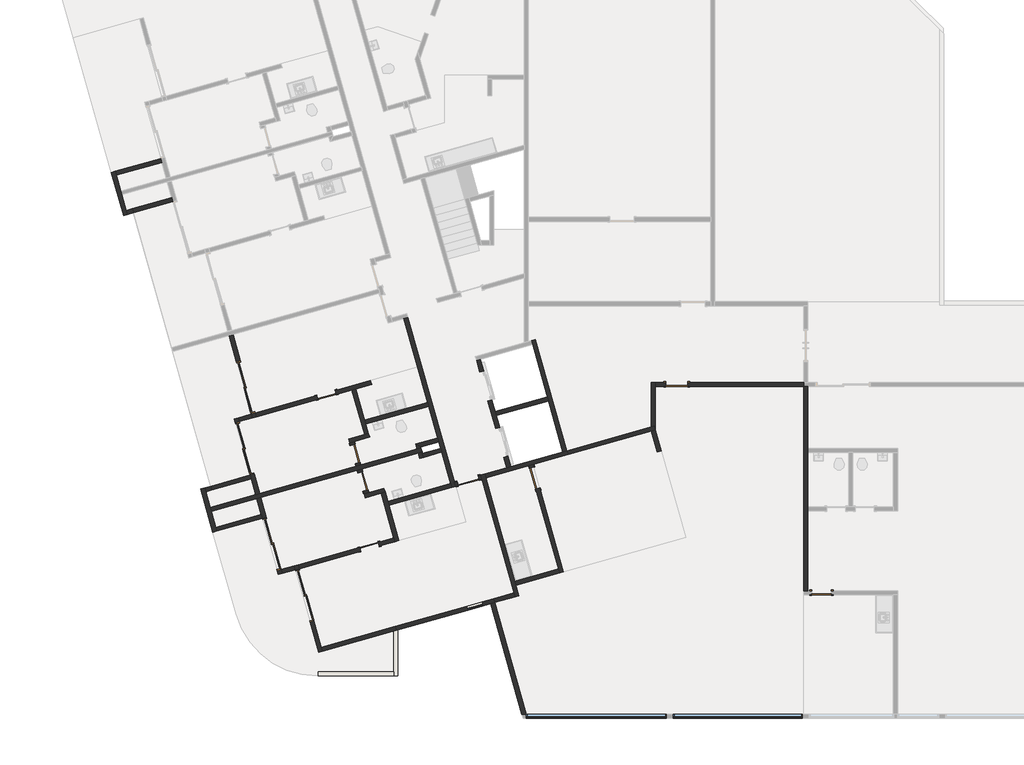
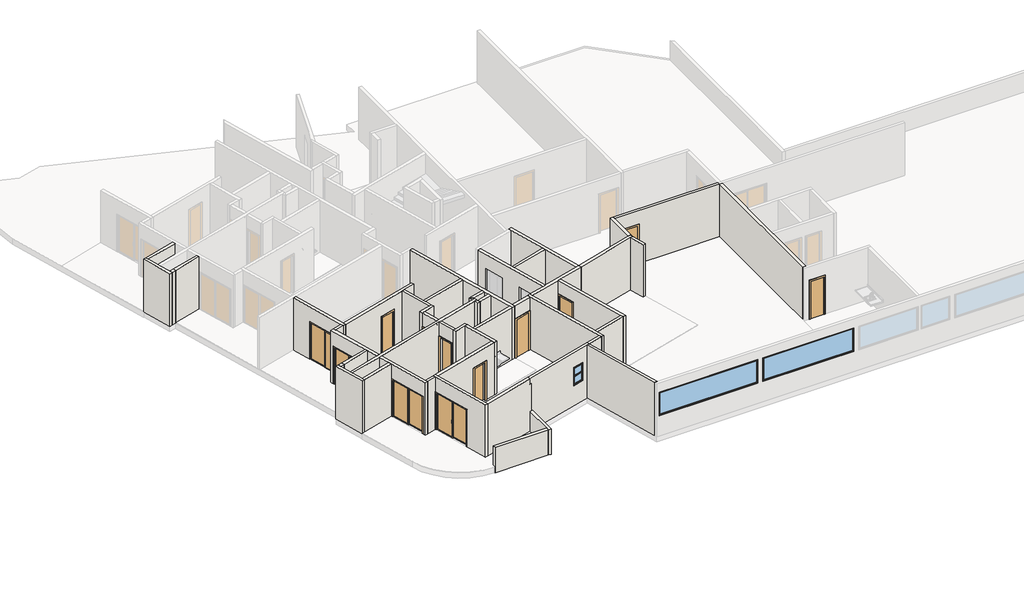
# One storey, part 1 of 7: 49 walls, 12 doors, 3 windows.
"""IFC4 building model written with IfcOpenShell, lengths in millimetres."""

from ifc_helpers import new_model, si_unit, frame, origin, place, context, project, spatial, polyline, outline, extrude, faceted_brep, transform, mapped, element, save
from components import p2_80cm_9d4be4ef, p2_80cm_083652d6, p3_70cm_ef4d15e3, p3_70cm_0a698c7c, p4_correr_200cm_eaaa0877, p4_correr_200cm_830b8f20, bx_60cm_cef95a5c, m_fixo1_jf_4_75m_a83b1cd6, m_fixo1_jf_5_15m_51e2bce7

model = new_model("IFC4")

# Units and contexts
model_context = context("Model", 3, world=origin())
ifc_project = project(units=[si_unit("LENGTHUNIT", "METRE", prefix="MILLI")], contexts=[model_context])

# Site, building, storey
site = spatial("IfcSite", under=ifc_project)
building = spatial("IfcBuilding", under=site)
storey = spatial("IfcBuildingStorey", under=building, Name="Térreo", Elevation=50750.0)

# Doors
placement = place(None, origin())
p2_80cm_shape = p2_80cm_9d4be4ef(model_context)
element("IfcDoor", 1, ObjectType="M_Folha única1 : P2 - 80CM", at=placement, inside=storey, context=model_context, shape_type="MappedRepresentation", body=[
    mapped(p2_80cm_shape, transform((-77213.6668366, 12144.847648, 50750.0), x_axis=(0.9623628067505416, 0.2717679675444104, 0.0), y_axis=(-0.2717679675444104, 0.9623628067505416, 0.0), z_axis=(0.0, 0.0, 1.0))),
])
p2_80cm_2_shape = p2_80cm_083652d6(model_context)
element("IfcDoor", 2, ObjectType="M_Folha única1 : P2 - 80CM", at=placement, inside=storey, context=model_context, shape_type="MappedRepresentation", body=[
    mapped(p2_80cm_2_shape, transform((-69550.0770621, 15689.9578375, 50750.0), x_axis=(-1.0, 0.0, 0.0), y_axis=(0.0, -1.0, 0.0), z_axis=(0.0, 0.0, 1.0))),
])
element("IfcDoor", 3, ObjectType="M_Folha única1 : P2 - 80CM", at=placement, inside=storey, context=model_context, shape_type="MappedRepresentation", body=[
    mapped(p2_80cm_2_shape, transform((-74758.2390892, 12240.7642896, 50750.0), x_axis=(-0.27176796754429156, 0.9623628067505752, 0.0), y_axis=(-0.9623628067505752, -0.27176796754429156, 0.0), z_axis=(0.0, 0.0, 1.0))),
])
p3_70cm_shape = p3_70cm_ef4d15e3(model_context)
element("IfcDoor", 4, ObjectType="M_Folha única1 : P3 - 70CM", at=placement, inside=storey, context=model_context, shape_type="MappedRepresentation", body=[
    mapped(p3_70cm_shape, transform((-80840.7851368, 9718.5269225, 50750.0), x_axis=(0.9623628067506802, 0.2717679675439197, 0.0), y_axis=(-0.2717679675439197, 0.9623628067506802, 0.0), z_axis=(0.0, 0.0, 1.0))),
])
element("IfcDoor", 5, ObjectType="M_Folha única1 : P3 - 70CM", at=placement, inside=storey, context=model_context, shape_type="MappedRepresentation", body=[
    mapped(p3_70cm_shape, transform((-81362.5862327, 13130.1209218, 50750.0), x_axis=(0.271767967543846, -0.9623628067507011, 0.0), y_axis=(0.9623628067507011, 0.271767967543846, 0.0), z_axis=(0.0, 0.0, 1.0))),
])
element("IfcDoor", 6, ObjectType="M_Folha única1 : P3 - 70CM", at=placement, inside=storey, context=model_context, shape_type="MappedRepresentation", body=[
    mapped(p3_70cm_shape, transform((-64225.8696428, 8028.4535975, 50750.0), x_axis=(-1.0, 0.0, 0.0), y_axis=(0.0, -1.0, 0.0), z_axis=(0.0, 0.0, 1.0))),
])
p3_70cm_2_shape = p3_70cm_0a698c7c(model_context)
element("IfcDoor", 7, ObjectType="M_Folha única1 : P3 - 70CM", at=placement, inside=storey, context=model_context, shape_type="MappedRepresentation", body=[
    mapped(p3_70cm_2_shape, transform((-81077.2298668, 12119.6399747, 50750.0), x_axis=(-0.27176796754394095, 0.9623628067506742, 0.0), y_axis=(-0.9623628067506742, -0.27176796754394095, 0.0), z_axis=(0.0, 0.0, 1.0))),
])
element("IfcDoor", 8, ObjectType="M_Folha única1 : P3 - 70CM", at=placement, inside=storey, context=model_context, shape_type="MappedRepresentation", body=[
    mapped(p3_70cm_2_shape, transform((-82417.0393485, 15300.2312016, 50750.0), x_axis=(0.9623628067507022, 0.27176796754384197, 0.0), y_axis=(-0.27176796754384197, 0.9623628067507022, 0.0), z_axis=(0.0, 0.0, 1.0))),
])
p4_correr_200cm_shape = p4_correr_200cm_eaaa0877(model_context)
element("IfcDoor", 9, ObjectType="Porta de correr dupla envidraçada sem revestimento : P4 - CORRER - 200CM", at=placement, inside=storey, context=model_context, shape_type="MappedRepresentation", body=[
    mapped(p4_correr_200cm_shape, transform((-84429.028315, 9822.2616509, 50750.0), x_axis=(-0.27176796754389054, 0.9623628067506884, 0.0), y_axis=(-0.9623628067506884, -0.27176796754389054, 0.0), z_axis=(0.0, 0.0, 1.0))),
])
element("IfcDoor", 10, ObjectType="Porta de correr dupla envidraçada sem revestimento : P4 - CORRER - 200CM", at=placement, inside=storey, context=model_context, shape_type="MappedRepresentation", body=[
    mapped(p4_correr_200cm_shape, transform((-83223.012588, 7928.7516937, 50750.0), x_axis=(-0.2717679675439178, 0.9623628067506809, 0.0), y_axis=(-0.9623628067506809, -0.2717679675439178, 0.0), z_axis=(0.0, 0.0, 1.0))),
])
p4_correr_200cm_2_shape = p4_correr_200cm_830b8f20(model_context)
element("IfcDoor", 11, ObjectType="Porta de correr dupla envidraçada sem revestimento : P4 - CORRER - 200CM", at=placement, inside=storey, context=model_context, shape_type="MappedRepresentation", body=[
    mapped(p4_correr_200cm_2_shape, transform((-85383.5679299, 15579.5360073, 50750.0), x_axis=(-0.2717679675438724, 0.9623628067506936, 0.0), y_axis=(-0.9623628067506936, -0.2717679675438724, 0.0), z_axis=(0.0, 0.0, 1.0))),
])
element("IfcDoor", 12, ObjectType="Porta de correr dupla envidraçada sem revestimento : P4 - CORRER - 200CM", at=placement, inside=storey, context=model_context, shape_type="MappedRepresentation", body=[
    mapped(p4_correr_200cm_2_shape, transform((-85420.9813965, 13334.8858955, 50750.0), x_axis=(-0.27176796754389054, 0.9623628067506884, 0.0), y_axis=(-0.9623628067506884, -0.27176796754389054, 0.0), z_axis=(0.0, 0.0, 1.0))),
])

# Walls
element("IfcWall", 13, ObjectType="Básica .15 -  Interna", at=placement, inside=storey, context=model_context, shape_type="Brep", body=[
    faceted_brep([(-75344.9919691, 7919.3931149, 50750.0), (-75453.968099, 8305.2905966, 50750.0), (-75494.7332941, 8449.6450176, 50750.0), (-76567.7484146, 12249.3196164, 50750.0), (-76608.5136097, 12393.6740374, 50750.0), (-76608.5136097, 12393.6740374, 53650.0), (-76567.7484146, 12249.3196164, 53650.0), (-75494.7332941, 8449.6450176, 53650.0), (-75453.968099, 8305.2905966, 53650.0), (-75344.9919691, 7919.3931149, 53650.0), (-75489.3463901, 7878.6279198, 50750.0), (-75489.3463901, 7878.6279198, 53650.0), (-75530.1115852, 8022.9823408, 53650.0), (-76712.1028356, 12208.5544213, 53650.0), (-76752.8680308, 12352.9088423, 53650.0), (-76752.8680308, 12352.9088423, 50750.0), (-76712.1028356, 12208.5544213, 50750.0), (-75530.1115852, 8022.9823408, 50750.0)], [[[0, 1, 2, 3, 4, 5, 6, 7, 8, 9]], [[10, 11, 12, 13, 14, 15, 16, 17]], [[4, 3, 2, 1, 0, 10, 17, 16, 15]], [[9, 8, 7, 6, 5, 14, 13, 12, 11]], [[0, 9, 11, 10]], [[5, 4, 15, 14]]]),
])
element("IfcWall", 14, ObjectType="Básica .15 -  Interna", at=placement, inside=storey, context=model_context, shape_type="Brep", body=[
    faceted_brep([(-79571.9228624, 18103.967491, 50750.0), (-78702.2653663, 15024.4065094, 50750.0), (-78661.5001712, 14880.0520884, 50750.0), (-78335.3786101, 13725.2167203, 50750.0), (-78294.613415, 13580.8622993, 50750.0), (-78226.6714231, 13340.2715976, 50750.0), (-78185.906228, 13195.9171766, 50750.0), (-77818.8200634, 11896.0212586, 50750.0), (-77818.8200634, 11896.0212586, 53650.0), (-78185.906228, 13195.9171766, 53650.0), (-78226.6714231, 13340.2715976, 53650.0), (-78294.613415, 13580.8622993, 53650.0), (-78335.3786101, 13725.2167203, 53650.0), (-78661.5001712, 14880.0520884, 53650.0), (-78702.2653663, 15024.4065094, 53650.0), (-79571.9228624, 18103.967491, 53650.0), (-79427.5684414, 18144.7326862, 50750.0), (-79427.5684414, 18144.7326862, 53650.0), (-77715.2308375, 12081.1408747, 53650.0), (-77674.4656424, 11936.7864537, 53650.0), (-77674.4656424, 11936.7864537, 50750.0), (-77715.2308375, 12081.1408747, 50750.0)], [[[0, 1, 2, 3, 4, 5, 6, 7, 8, 9, 10, 11, 12, 13, 14, 15]], [[16, 17, 18, 19, 20, 21]], [[7, 6, 5, 4, 3, 2, 1, 0, 16, 21, 20]], [[15, 14, 13, 12, 11, 10, 9, 8, 19, 18, 17]], [[0, 15, 17, 16]], [[8, 7, 20, 19]]]),
])
element("IfcWall", 15, ObjectType="Básica .15 -  Interna", at=placement, inside=storey, context=model_context, shape_type="Brep", body=[
    faceted_brep([(-85017.5646639, 11630.3683862, 53650.0), (-85180.6254444, 12207.7860702, 53650.0), (-85221.3906395, 12352.1404912, 53650.0), (-85805.6917697, 14421.2205257, 53650.0), (-85805.6917697, 14421.2205257, 50750.0), (-85764.9265746, 14276.8661047, 50750.0), (-85764.9265746, 14276.8661047, 52850.0), (-85221.3906395, 12352.1404912, 52850.0), (-85221.3906395, 12352.1404912, 50750.0), (-85180.6254444, 12207.7860702, 50750.0), (-85017.5646639, 11630.3683862, 50750.0), (-85661.3373487, 14461.9857209, 53650.0), (-85620.5721536, 14317.6312998, 53650.0), (-84873.2102428, 11671.1335813, 53650.0), (-84873.2102428, 11671.1335813, 50750.0), (-85077.0362185, 12392.9056863, 50750.0), (-85077.0362185, 12392.9056863, 52850.0), (-85620.5721536, 14317.6312998, 52850.0), (-85620.5721536, 14317.6312998, 50750.0), (-85661.3373487, 14461.9857209, 50750.0)], [[[0, 1, 2, 3, 4, 5, 6, 7, 8, 9, 10]], [[11, 12, 13, 14, 15, 16, 17, 18, 19]], [[4, 19, 18, 5]], [[14, 10, 9, 8, 15]], [[3, 2, 1, 0, 13, 12, 11]], [[4, 3, 11, 19]], [[0, 10, 14, 13]], [[17, 6, 5, 18]], [[6, 17, 16, 7]], [[7, 16, 15, 8]]]),
])
element("IfcWall", 16, ObjectType="Básica .15 -  Interna", at=placement, inside=storey, context=model_context, shape_type="Brep", body=[
    faceted_brep([(-82710.8886682, 5839.2890616, 53650.0), (-83566.957766, 8870.7319029, 53650.0), (-83607.7229611, 9015.0863239, 53650.0), (-83607.7229611, 9015.0863239, 50750.0), (-83566.957766, 8870.7319029, 50750.0), (-83566.957766, 8870.7319029, 52850.0), (-83023.4218309, 6946.0062894, 52850.0), (-83023.4218309, 6946.0062894, 50750.0), (-82710.8886682, 5839.2890616, 50750.0), (-83463.3685401, 9055.851519, 53650.0), (-83422.603345, 8911.497098, 53650.0), (-82607.2994424, 6024.4086777, 53650.0), (-82566.5342472, 5880.0542567, 53650.0), (-82566.5342472, 5880.0542567, 50750.0), (-82607.2994424, 6024.4086777, 50750.0), (-82879.0674099, 6986.7714845, 50750.0), (-82879.0674099, 6986.7714845, 52850.0), (-83422.603345, 8911.497098, 52850.0), (-83422.603345, 8911.497098, 50750.0), (-83463.3685401, 9055.851519, 50750.0)], [[[0, 1, 2, 3, 4, 5, 6, 7, 8]], [[9, 10, 11, 12, 13, 14, 15, 16, 17, 18, 19]], [[3, 19, 18, 4]], [[13, 8, 7, 15, 14]], [[2, 1, 0, 12, 11, 10, 9]], [[3, 2, 9, 19]], [[0, 8, 13, 12]], [[17, 5, 4, 18]], [[5, 17, 16, 6]], [[6, 16, 15, 7]]]),
])
element("IfcWall", 17, ObjectType="Básica .15 - Externa", at=placement, inside=storey, context=model_context, shape_type="Brep", body=[
    faceted_brep([(-79945.4990038, 6620.2256515, 51850.0), (-79945.4990038, 6620.2256515, 50450.0), (-79945.4990038, 5119.4122055, 50450.0), (-79945.4990038, 4969.4122055, 50450.0), (-79945.4990038, 4969.4122055, 51850.0), (-79945.4990038, 5119.4122055, 51850.0), (-79795.4990038, 6662.5851389, 50450.0), (-79795.4990038, 6662.5851389, 51850.0), (-79795.4990038, 4969.4122055, 51850.0), (-79795.4990038, 4969.4122055, 50450.0)], [[[0, 1, 2, 3, 4, 5]], [[6, 7, 8, 9]], [[3, 2, 1, 6, 9]], [[0, 5, 4, 8, 7]], [[4, 3, 9, 8]], [[0, 7, 6, 1]]]),
])
element("IfcWall", 18, ObjectType="Básica .15 - Externa", at=placement, inside=storey, context=model_context, shape_type="SweptSolid", body=[
    extrude(outline(polyline([(-82713.5540687, 5119.4122055), (-79945.4990038, 5119.4122055), (-79945.4990038, 4969.4122055), (-82713.5540687, 4969.4122055), (-82713.5540687, 5119.4122055)])), frame((0.0, 0.0, 50450.0), z_axis=(0.0, 0.0, 1.0), x_axis=(1.0, 0.0, 0.0)), (0.0, 0.0, 1.0), 1400.0),
])
element("IfcWall", 19, ObjectType="Básica .15 -  Interna", at=placement, inside=storey, context=model_context, shape_type="Brep", body=[
    faceted_brep([(-73581.8825825, 13248.3842954, 50750.0), (-73726.2370035, 13207.6191002, 50750.0), (-75646.150803, 12665.442005, 50750.0), (-75790.505224, 12624.6768098, 50750.0), (-76608.5136097, 12393.6740374, 50750.0), (-76608.5136097, 12393.6740374, 53650.0), (-75790.505224, 12624.6768098, 53650.0), (-75646.150803, 12665.442005, 53650.0), (-73726.2370035, 13207.6191002, 53650.0), (-73581.8825825, 13248.3842954, 53650.0), (-73541.1173874, 13104.0298743, 50750.0), (-73541.1173874, 13104.0298743, 53650.0), (-74821.9458624, 12742.3282905, 53650.0), (-74966.3002834, 12701.5630954, 53650.0), (-76567.7484146, 12249.3196164, 53650.0), (-76567.7484146, 12249.3196164, 50750.0), (-74966.3002834, 12701.5630954, 50750.0), (-74821.9458624, 12742.3282905, 50750.0), (-73541.3863303, 13104.9822333, 50750.0), (-73541.3863303, 13104.9822333, 53650.0)], [[[0, 1, 2, 3, 4, 5, 6, 7, 8, 9]], [[10, 11, 12, 13, 14, 15, 16, 17]], [[4, 3, 2, 1, 0, 18, 10, 17, 16, 15]], [[9, 8, 7, 6, 5, 14, 13, 12, 11, 19]], [[0, 9, 19, 11, 10, 18]], [[5, 4, 15, 14]]]),
])
element("IfcWall", 20, ObjectType="Básica .15 -  Interna", at=placement, inside=storey, context=model_context, shape_type="Brep", body=[
    faceted_brep([(-74881.2508656, 17297.6610289, 50750.0), (-74840.4856705, 17153.3066079, 50750.0), (-74296.9497354, 15228.5809944, 50750.0), (-74256.1845402, 15084.2265734, 50750.0), (-73726.2370035, 13207.6191002, 50750.0), (-73726.2370035, 13207.6191002, 53650.0), (-74256.1845402, 15084.2265734, 53650.0), (-74296.9497354, 15228.5809944, 53650.0), (-74840.4856705, 17153.3066079, 53650.0), (-74881.2508656, 17297.6610289, 53650.0), (-74736.8964446, 17338.426224, 50750.0), (-74736.8964446, 17338.426224, 53650.0), (-73582.1515254, 13249.3366543, 53650.0), (-73581.8825825, 13248.3842954, 53650.0), (-73581.8825825, 13248.3842954, 50750.0), (-73582.1515254, 13249.3366543, 50750.0)], [[[0, 1, 2, 3, 4, 5, 6, 7, 8, 9]], [[10, 11, 12, 13, 14, 15]], [[4, 3, 2, 1, 0, 10, 15, 14]], [[9, 8, 7, 6, 5, 13, 12, 11]], [[5, 4, 14, 13]], [[0, 9, 11, 10]]]),
])
element("IfcWall", 21, ObjectType="Básica .15 -  Interna", at=placement, inside=storey, context=model_context, shape_type="Brep", body=[
    faceted_brep([(-76483.167581, 15077.4768805, 50750.0), (-76197.8112151, 14066.9959334, 50750.0), (-76197.8112151, 14066.9959334, 52875.0), (-75898.8664508, 13008.396846, 52875.0), (-75898.8664508, 13008.396846, 50750.0), (-75790.505224, 12624.6768098, 50750.0), (-75790.505224, 12624.6768098, 53650.0), (-76904.7538909, 16570.3643175, 53650.0), (-76904.7538909, 16570.3643175, 50750.0), (-76782.1123453, 16136.075968, 50750.0), (-76782.1123453, 16136.075968, 52875.0), (-76483.167581, 15077.4768805, 52875.0), (-76053.4567941, 14107.7611286, 52875.0), (-76053.4567941, 14107.7611286, 50750.0), (-76176.0983397, 14542.0494781, 50750.0), (-76216.8635348, 14686.4038991, 50750.0), (-76338.81316, 15118.2420757, 50750.0), (-76338.81316, 15118.2420757, 52875.0), (-76637.7579243, 16176.8411631, 52875.0), (-76637.7579243, 16176.8411631, 50750.0), (-76760.3994699, 16611.1295126, 50750.0), (-76760.3994699, 16611.1295126, 53650.0), (-76216.8635348, 14686.4038991, 53650.0), (-76176.0983397, 14542.0494781, 53650.0), (-75646.150803, 12665.442005, 53650.0), (-75646.150803, 12665.442005, 50750.0), (-75754.5120298, 13049.1620412, 50750.0), (-75754.5120298, 13049.1620412, 52875.0)], [[[0, 1, 2, 3, 4, 5, 6, 7, 8, 9, 10, 11]], [[12, 13, 14, 15, 16, 17, 18, 19, 20, 21, 22, 23, 24, 25, 26, 27]], [[9, 8, 20, 19]], [[26, 25, 5, 4]], [[16, 15, 14, 13, 1, 0]], [[7, 6, 24, 23, 22, 21]], [[8, 7, 21, 20]], [[6, 5, 25, 24]], [[4, 3, 27, 26]], [[2, 1, 13, 12]], [[3, 2, 12, 27]], [[19, 18, 10, 9]], [[17, 16, 0, 11]], [[18, 17, 11, 10]]]),
])
element("IfcWall", 22, ObjectType="Básica .15 -  Interna", at=placement, inside=storey, context=model_context, shape_type="SweptSolid", body=[
    extrude(outline(polyline([(-74256.1845402, 15084.2265734), (-76176.0983397, 14542.0494781), (-76216.8635348, 14686.4038991), (-74296.9497354, 15228.5809944), (-74256.1845402, 15084.2265734)])), frame((0.0, 0.0, 50750.0), z_axis=(0.0, 0.0, 1.0), x_axis=(1.0, 0.0, 0.0)), (0.0, 0.0, 1.0), 2900.0),
])
element("IfcWall", 23, ObjectType="Básica .15 -  Interna", at=placement, inside=storey, context=model_context, shape_type="Brep", body=[
    faceted_brep([(-82566.5342472, 5880.0542567, 50750.0), (-79850.1164062, 6647.1613711, 50750.0), (-79850.1164062, 6647.1613711, 53350.0), (-79945.4990038, 6620.2256515, 53350.0), (-79945.4990038, 6620.2256515, 53650.0), (-82566.5342472, 5880.0542567, 53650.0), (-82607.2994424, 6024.4086777, 50750.0), (-82607.2994424, 6024.4086777, 53650.0), (-79945.4990038, 6776.0920243, 53650.0), (-79945.4990038, 6776.0920243, 53350.0), (-79890.8816014, 6791.5157921, 53350.0), (-79890.8816014, 6791.5157921, 50750.0)], [[[0, 1, 2, 3, 4, 5]], [[6, 7, 8, 9, 10, 11]], [[1, 0, 6, 11]], [[5, 4, 8, 7]], [[0, 5, 7, 6]], [[1, 11, 10, 2]], [[9, 3, 2, 10]], [[4, 3, 9, 8]]]),
])
element("IfcWall", 24, ObjectType="Básica .15 -  Interna", at=placement, inside=storey, context=model_context, shape_type="Brep", body=[
    faceted_brep([(-85221.3906395, 12352.1404912, 50750.0), (-86668.7560772, 11943.4094383, 50750.0), (-86668.7560772, 11943.4094383, 53650.0), (-85221.3906395, 12352.1404912, 53650.0), (-85221.3906395, 12352.1404912, 52850.0), (-85180.6254444, 12207.7860702, 50750.0), (-85180.6254444, 12207.7860702, 53650.0), (-86627.9908821, 11799.0550173, 53650.0), (-86627.9908821, 11799.0550173, 50750.0)], [[[0, 1, 2, 3, 4]], [[5, 6, 7, 8]], [[1, 0, 5, 8]], [[2, 1, 8, 7]], [[3, 2, 7, 6]], [[0, 4, 3, 6, 5]]]),
])
element("IfcWall", 25, ObjectType="Básica .15 - Externa", at=placement, inside=storey, context=model_context, shape_type="Brep", body=[
    faceted_brep([(-86444.4738537, 10292.215871, 50750.0), (-86485.2390488, 10436.570292, 50750.0), (-86648.2998293, 11013.987976, 50750.0), (-86689.0650245, 11158.342397, 50750.0), (-86852.125805, 11735.7600811, 50750.0), (-86892.8910001, 11880.1145021, 50750.0), (-86892.8910001, 11880.1145021, 53650.0), (-86852.125805, 11735.7600811, 53650.0), (-86689.0650245, 11158.342397, 53650.0), (-86648.2998293, 11013.987976, 53650.0), (-86485.2390488, 10436.570292, 53650.0), (-86444.4738537, 10292.215871, 53650.0), (-86588.8282747, 10251.4506758, 50750.0), (-86588.8282747, 10251.4506758, 53650.0), (-87037.2454211, 11839.349307, 53650.0), (-87037.2454211, 11839.349307, 50750.0)], [[[0, 1, 2, 3, 4, 5, 6, 7, 8, 9, 10, 11]], [[12, 13, 14, 15]], [[5, 4, 3, 2, 1, 0, 12, 15]], [[11, 10, 9, 8, 7, 6, 14, 13]], [[6, 5, 15, 14]], [[0, 11, 13, 12]]]),
])
element("IfcWall", 26, ObjectType="Básica .15 -  Interna", at=placement, inside=storey, context=model_context, shape_type="Brep", body=[
    faceted_brep([(-86444.4738537, 10292.215871, 50750.0), (-84772.9734931, 10764.2418601, 50750.0), (-84772.9734931, 10764.2418601, 52850.0), (-84772.9734931, 10764.2418601, 53650.0), (-86444.4738537, 10292.215871, 53650.0), (-86485.2390488, 10436.570292, 50750.0), (-86485.2390488, 10436.570292, 53650.0), (-84813.7386882, 10908.5962811, 53650.0), (-84813.7386882, 10908.5962811, 50750.0)], [[[0, 1, 2, 3, 4]], [[5, 6, 7, 8]], [[1, 0, 5, 8]], [[4, 3, 7, 6]], [[0, 4, 6, 5]], [[3, 2, 1, 8, 7]]]),
])
element("IfcWall", 27, ObjectType="Básica .15 - Externa", at=placement, inside=storey, context=model_context, shape_type="Brep", body=[
    faceted_brep([(-89732.866261, 21936.8058326, 50750.0), (-89773.6314561, 22081.1602536, 50750.0), (-89936.6922366, 22658.5779377, 50750.0), (-89977.4574318, 22802.9323587, 50750.0), (-90140.5182123, 23380.3500428, 50750.0), (-90181.2834074, 23524.7044638, 50750.0), (-90181.2834074, 23524.7044638, 53650.0), (-90140.5182123, 23380.3500428, 53650.0), (-89977.4574318, 22802.9323587, 53650.0), (-89936.6922366, 22658.5779377, 53650.0), (-89773.6314561, 22081.1602536, 53650.0), (-89732.866261, 21936.8058326, 53650.0), (-89877.220682, 21896.0406375, 50750.0), (-89877.220682, 21896.0406375, 53650.0), (-90325.6378284, 23483.9392686, 53650.0), (-90325.6378284, 23483.9392686, 50750.0)], [[[0, 1, 2, 3, 4, 5, 6, 7, 8, 9, 10, 11]], [[12, 13, 14, 15]], [[5, 4, 3, 2, 1, 0, 12, 15]], [[11, 10, 9, 8, 7, 6, 14, 13]], [[0, 11, 13, 12]], [[6, 5, 15, 14]]]),
])
element("IfcWall", 28, ObjectType="Básica .15 -  Interna", at=placement, inside=storey, context=model_context, shape_type="Brep", body=[
    faceted_brep([(-88102.1310955, 22553.1862428, 50750.0), (-89549.4965332, 22144.4551899, 50750.0), (-89549.4965332, 22144.4551899, 53650.0), (-88102.1310955, 22553.1862428, 53650.0), (-88061.3659003, 22408.8318218, 50750.0), (-88061.3659003, 22408.8318218, 52850.0), (-88061.3659003, 22408.8318218, 53650.0), (-89508.731338, 22000.1007688, 53650.0), (-89508.731338, 22000.1007688, 50750.0)], [[[0, 1, 2, 3]], [[4, 5, 6, 7, 8]], [[1, 0, 4, 8]], [[2, 1, 8, 7]], [[3, 2, 7, 6]], [[0, 3, 6, 5, 4]]]),
])
element("IfcWall", 29, ObjectType="Básica .15 -  Interna", at=placement, inside=storey, context=model_context, shape_type="Brep", body=[
    faceted_brep([(-90140.5182123, 23380.3500428, 50750.0), (-88469.0178517, 23852.3760319, 50750.0), (-88469.0178517, 23852.3760319, 53650.0), (-90140.5182123, 23380.3500428, 53650.0), (-90181.2834074, 23524.7044638, 50750.0), (-90181.2834074, 23524.7044638, 53650.0), (-88509.7830468, 23996.7304529, 53650.0), (-88509.7830468, 23996.7304529, 52850.0), (-88509.7830468, 23996.7304529, 50750.0)], [[[0, 1, 2, 3]], [[4, 5, 6, 7, 8]], [[1, 0, 4, 8]], [[3, 2, 6, 5]], [[0, 3, 5, 4]], [[2, 1, 8, 7, 6]]]),
])
element("IfcWall", 30, ObjectType="Básica .15 -  Interna", at=placement, inside=storey, context=model_context, shape_type="Brep", body=[
    faceted_brep([(-83607.7229611, 9015.0863239, 50750.0), (-84085.083137, 8880.2814417, 50750.0), (-84085.083137, 8880.2814417, 52850.0), (-84085.083137, 8880.2814417, 53650.0), (-83607.7229611, 9015.0863239, 53650.0), (-83566.957766, 8870.7319029, 50750.0), (-83566.957766, 8870.7319029, 52850.0), (-83566.957766, 8870.7319029, 53650.0), (-84044.3179418, 8735.9270207, 53650.0), (-84044.3179418, 8735.9270207, 50750.0)], [[[0, 1, 2, 3, 4]], [[5, 6, 7, 8, 9]], [[1, 0, 5, 9]], [[4, 3, 8, 7]], [[3, 2, 1, 9, 8]], [[0, 4, 7, 6, 5]]]),
])
element("IfcWall", 31, ObjectType="Básica .15 -  Interna", at=placement, inside=storey, context=model_context, shape_type="Brep", body=[
    faceted_brep([(-85183.9771729, 14596.790603, 50750.0), (-85661.3373487, 14461.9857209, 50750.0), (-85661.3373487, 14461.9857209, 53650.0), (-85183.9771729, 14596.790603, 53650.0), (-85183.9771729, 14596.790603, 52850.0), (-85143.2119778, 14452.436182, 50750.0), (-85143.2119778, 14452.436182, 53650.0), (-85620.5721536, 14317.6312998, 53650.0), (-85620.5721536, 14317.6312998, 52850.0), (-85620.5721536, 14317.6312998, 50750.0)], [[[0, 1, 2, 3, 4]], [[5, 6, 7, 8, 9]], [[1, 0, 5, 9]], [[3, 2, 7, 6]], [[2, 1, 9, 8, 7]], [[0, 4, 3, 6, 5]]]),
])
element("IfcWall", 32, ObjectType="Básica .15 -  Interna", at=placement, inside=storey, context=model_context, shape_type="Brep", body=[
    faceted_brep([(-85143.2119778, 14452.436182, 53650.0), (-85183.9771729, 14596.790603, 53650.0), (-85992.4868763, 17459.8199531, 53650.0), (-85992.4868763, 17459.8199531, 50750.0), (-85727.513108, 16521.5162165, 50750.0), (-85727.513108, 16521.5162165, 52850.0), (-85183.9771729, 14596.790603, 52850.0), (-85183.9771729, 14596.790603, 50750.0), (-85143.2119778, 14452.436182, 50750.0), (-85848.1324553, 17500.5851482, 53650.0), (-85039.6227519, 14637.5557982, 53650.0), (-84998.8575568, 14493.2013772, 53650.0), (-84998.8575568, 14493.2013772, 50750.0), (-85039.6227519, 14637.5557982, 50750.0), (-85039.6227519, 14637.5557982, 52850.0), (-85583.158687, 16562.2814117, 52850.0), (-85583.158687, 16562.2814117, 50750.0), (-85848.1324553, 17500.5851482, 50750.0)], [[[0, 1, 2, 3, 4, 5, 6, 7, 8]], [[9, 10, 11, 12, 13, 14, 15, 16, 17]], [[3, 17, 16, 4]], [[12, 8, 7, 13]], [[2, 1, 0, 11, 10, 9]], [[3, 2, 9, 17]], [[0, 8, 12, 11]], [[15, 5, 4, 16]], [[5, 15, 14, 6]], [[6, 14, 13, 7]]]),
])
element("IfcWall", 33, ObjectType="Básica .15 -  Interna", at=placement, inside=storey, context=model_context, shape_type="Brep", body=[
    faceted_brep([(-78945.0553533, 13345.2242614, 50750.0), (-81168.1134369, 12717.4402563, 50750.0), (-81312.4678579, 12676.6750612, 50750.0), (-84873.2102428, 11671.1335813, 50750.0), (-85017.5646639, 11630.3683862, 50750.0), (-86689.0650245, 11158.342397, 50750.0), (-86689.0650245, 11158.342397, 53650.0), (-85017.5646639, 11630.3683862, 53650.0), (-84873.2102428, 11671.1335813, 53650.0), (-81312.4678579, 12676.6750612, 53650.0), (-81168.1134369, 12717.4402563, 53650.0), (-78945.0553533, 13345.2242614, 53650.0), (-78904.2901581, 13200.8698403, 50750.0), (-78904.2901581, 13200.8698403, 53650.0), (-81127.3482417, 12573.0858353, 53650.0), (-81271.7026627, 12532.3206402, 53650.0), (-84832.4450477, 11526.7791603, 53650.0), (-84976.7994687, 11486.0139651, 53650.0), (-86648.2998293, 11013.987976, 53650.0), (-86648.2998293, 11013.987976, 50750.0), (-84976.7994687, 11486.0139651, 50750.0), (-84832.4450477, 11526.7791603, 50750.0), (-81271.7026627, 12532.3206402, 50750.0), (-81127.3482417, 12573.0858353, 50750.0)], [[[0, 1, 2, 3, 4, 5, 6, 7, 8, 9, 10, 11]], [[12, 13, 14, 15, 16, 17, 18, 19, 20, 21, 22, 23]], [[5, 4, 3, 2, 1, 0, 12, 23, 22, 21, 20, 19]], [[11, 10, 9, 8, 7, 6, 18, 17, 16, 15, 14, 13]], [[0, 11, 13, 12]], [[6, 5, 19, 18]]]),
])
element("IfcWall", 34, ObjectType="Básica .15 -  Interna", at=placement, inside=storey, context=model_context, shape_type="Brep", body=[
    faceted_brep([(-84188.6723628, 8695.1618256, 53650.0), (-84772.9734931, 10764.2418601, 53650.0), (-84813.7386882, 10908.5962811, 53650.0), (-84976.7994687, 11486.0139651, 53650.0), (-84976.7994687, 11486.0139651, 50750.0), (-84813.7386882, 10908.5962811, 50750.0), (-84772.9734931, 10764.2418601, 50750.0), (-84772.9734931, 10764.2418601, 52850.0), (-84229.437558, 8839.5162466, 52850.0), (-84229.437558, 8839.5162466, 50750.0), (-84188.6723628, 8695.1618256, 50750.0), (-84832.4450477, 11526.7791603, 53650.0), (-84085.083137, 8880.2814417, 53650.0), (-84044.3179418, 8735.9270207, 53650.0), (-84044.3179418, 8735.9270207, 50750.0), (-84085.083137, 8880.2814417, 50750.0), (-84085.083137, 8880.2814417, 52850.0), (-84628.6190721, 10805.0070552, 52850.0), (-84628.6190721, 10805.0070552, 50750.0), (-84832.4450477, 11526.7791603, 50750.0)], [[[0, 1, 2, 3, 4, 5, 6, 7, 8, 9, 10]], [[11, 12, 13, 14, 15, 16, 17, 18, 19]], [[14, 10, 9, 15]], [[4, 19, 18, 6, 5]], [[3, 2, 1, 0, 13, 12, 11]], [[0, 10, 14, 13]], [[4, 3, 11, 19]], [[17, 7, 6, 18]], [[7, 17, 16, 8]], [[8, 16, 15, 9]]]),
])
element("IfcWall", 35, ObjectType="Básica .15 - Externa", at=placement, inside=storey, context=model_context, shape_type="Brep", body=[
    faceted_brep([(-79850.1164062, 6647.1613711, 53350.0), (-79850.1164062, 6647.1613711, 50750.0), (-76385.7999624, 7625.4724948, 50750.0), (-76241.4455414, 7666.2376899, 50750.0), (-76241.4455414, 7666.2376899, 53650.0), (-76385.7999624, 7625.4724948, 53650.0), (-79850.1164062, 6647.1613711, 53650.0), (-79945.4990038, 6620.2256515, 53650.0), (-79945.4990038, 6620.2256515, 53350.0), (-76649.6431667, 7550.9640756, 51850.0), (-77227.0608508, 7387.9032951, 51850.0), (-77227.0608508, 7387.9032951, 52850.0), (-76649.6431667, 7550.9640756, 52850.0), (-79890.8816014, 6791.5157921, 50750.0), (-79890.8816014, 6791.5157921, 53350.0), (-79945.4990038, 6776.0920243, 53350.0), (-79945.4990038, 6776.0920243, 53650.0), (-79890.8816014, 6791.5157921, 53650.0), (-76282.2107365, 7810.5921109, 53650.0), (-76282.2107365, 7810.5921109, 50750.0), (-76426.5651575, 7769.8269158, 50750.0), (-76690.4083619, 7695.3184966, 51850.0), (-76690.4083619, 7695.3184966, 52850.0), (-77267.8260459, 7532.2577161, 52850.0), (-77267.8260459, 7532.2577161, 51850.0)], [[[0, 1, 2, 3, 4, 5, 6, 7, 8], [9, 10, 11, 12]], [[13, 14, 15, 16, 17, 18, 19, 20], [21, 22, 23, 24]], [[3, 2, 1, 13, 20, 19]], [[7, 6, 5, 4, 18, 17, 16]], [[21, 24, 10, 9]], [[24, 23, 11, 10]], [[23, 22, 12, 11]], [[22, 21, 9, 12]], [[0, 14, 13, 1]], [[8, 15, 14, 0]], [[8, 7, 16, 15]], [[4, 3, 19, 18]]]),
])
element("IfcWall", 36, ObjectType="Básica .15 - Externa", at=placement, inside=storey, context=model_context, shape_type="SweptSolid", body=[
    extrude(outline(polyline([(-89773.6314561, 22081.1602536), (-89549.4965332, 22144.4551899), (-89508.731338, 22000.1007688), (-89732.866261, 21936.8058326), (-89773.6314561, 22081.1602536)])), frame((0.0, 0.0, 50750.0), z_axis=(0.0, 0.0, 1.0), x_axis=(1.0, 0.0, 0.0)), (0.0, 0.0, 1.0), 2900.0),
])
element("IfcWall", 37, ObjectType="Básica .15 - Externa", at=placement, inside=storey, context=model_context, shape_type="SweptSolid", body=[
    extrude(outline(polyline([(-86892.8910001, 11880.1145021), (-86668.7560772, 11943.4094383), (-86627.9908821, 11799.0550173), (-86852.125805, 11735.7600811), (-86892.8910001, 11880.1145021)])), frame((0.0, 0.0, 50750.0), z_axis=(0.0, 0.0, 1.0), x_axis=(1.0, 0.0, 0.0)), (0.0, 0.0, 1.0), 2900.0),
])
element("IfcWall", 38, ObjectType="Básica .15 -  Interna", at=placement, inside=storey, context=model_context, shape_type="SweptSolid", body=[
    extrude(outline(polyline([(-80169.4554031, 11388.8386864), (-77859.7846669, 12041.0818085), (-77819.0194718, 11896.7273875), (-80128.690208, 11244.4842654), (-80169.4554031, 11388.8386864)])), frame((0.0, 0.0, 50750.0), z_axis=(0.0, 0.0, 1.0), x_axis=(1.0, 0.0, 0.0)), (0.0, 0.0, 1.0), 2900.0),
])
element("IfcWall", 39, ObjectType="Básica .15 -  Interna", at=placement, inside=storey, context=model_context, shape_type="SweptSolid", body=[
    extrude(outline(polyline([(-78185.906228, 13195.9171766), (-78849.9365646, 13008.397279), (-78890.7017597, 13152.7517), (-78226.6714231, 13340.2715976), (-78185.906228, 13195.9171766)])), frame((0.0, 0.0, 50750.0), z_axis=(0.0, 0.0, 1.0), x_axis=(1.0, 0.0, 0.0)), (0.0, 0.0, 1.0), 2900.0),
])
element("IfcWall", 40, ObjectType="Básica .15 -  Interna", at=placement, inside=storey, context=model_context, shape_type="Brep", body=[
    faceted_brep([(-80986.3462968, 11521.8396931, 50750.0), (-80408.9286128, 11684.9004736, 50750.0), (-80264.5741917, 11725.6656688, 50750.0), (-80264.5741917, 11725.6656688, 53650.0), (-80408.9286128, 11684.9004736, 53650.0), (-80986.3462968, 11521.8396931, 53650.0), (-81027.1114919, 11666.1941141, 50750.0), (-81027.1114919, 11666.1941141, 53650.0), (-80882.7570709, 11706.9593092, 53650.0), (-80305.3393869, 11870.0200898, 53650.0), (-80305.3393869, 11870.0200898, 50750.0), (-80882.7570709, 11706.9593092, 50750.0)], [[[0, 1, 2, 3, 4, 5]], [[6, 7, 8, 9, 10, 11]], [[2, 1, 0, 6, 11, 10]], [[5, 4, 3, 9, 8, 7]], [[0, 5, 7, 6]], [[3, 2, 10, 9]]]),
])
element("IfcWall", 41, ObjectType="Básica .15 -  Interna", at=placement, inside=storey, context=model_context, shape_type="SweptSolid", body=[
    extrude(outline(polyline([(900.0, -2900.0), (0.0, -2900.0), (0.0, 0.0), (100.0, 0.0), (100.0, -2100.0), (800.0, -2100.0), (800.0, 0.0), (900.0, 0.0), (900.0, -2900.0)])), frame((-81271.7026627, 12532.3206402, 50750.0), z_axis=(0.9623628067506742, 0.271767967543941, 0.0), x_axis=(0.271767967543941, -0.9623628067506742, 0.0)), (0.0, 0.0, 1.0), 150.0),
])
element("IfcWall", 42, ObjectType="Básica .15 -  Interna", at=placement, inside=storey, context=model_context, shape_type="Brep", body=[
    faceted_brep([(-80408.9286128, 11684.9004736, 50750.0), (-79946.9230679, 10048.8837021, 50750.0), (-79906.1578728, 9904.5292811, 50750.0), (-79906.1578728, 9904.5292811, 53650.0), (-79946.9230679, 10048.8837021, 53650.0), (-80408.9286128, 11684.9004736, 53650.0), (-80264.5741917, 11725.6656688, 50750.0), (-80264.5741917, 11725.6656688, 53650.0), (-80169.4554031, 11388.8386864, 53650.0), (-80128.690208, 11244.4842654, 53650.0), (-79761.8034518, 9945.2944763, 53650.0), (-79761.8034518, 9945.2944763, 50750.0), (-80128.690208, 11244.4842654, 50750.0), (-80169.4554031, 11388.8386864, 50750.0)], [[[0, 1, 2, 3, 4, 5]], [[6, 7, 8, 9, 10, 11, 12, 13]], [[2, 1, 0, 6, 13, 12, 11]], [[5, 4, 3, 10, 9, 8, 7]], [[3, 2, 11, 10]], [[0, 5, 7, 6]]]),
])
element("IfcWall", 43, ObjectType="Básica .15 -  Interna", at=placement, inside=storey, context=model_context, shape_type="Brep", body=[
    faceted_brep([(-79946.9230679, 10048.8837021, 50750.0), (-80524.340752, 9885.8229216, 50750.0), (-80524.340752, 9885.8229216, 52850.0), (-81197.9947167, 9695.5853443, 52850.0), (-81197.9947167, 9695.5853443, 50750.0), (-83463.3685401, 9055.851519, 50750.0), (-83463.3685401, 9055.851519, 53650.0), (-79946.9230679, 10048.8837021, 53650.0), (-80483.5755569, 9741.4685006, 52850.0), (-80483.5755569, 9741.4685006, 50750.0), (-79906.1578728, 9904.5292811, 50750.0), (-79906.1578728, 9904.5292811, 53650.0), (-83422.603345, 8911.497098, 53650.0), (-83422.603345, 8911.497098, 52850.0), (-83422.603345, 8911.497098, 50750.0), (-81157.2295216, 9551.2309233, 50750.0), (-81157.2295216, 9551.2309233, 52850.0)], [[[0, 1, 2, 3, 4, 5, 6, 7]], [[8, 9, 10, 11, 12, 13, 14, 15, 16]], [[15, 14, 5, 4]], [[10, 9, 1, 0]], [[7, 6, 12, 11]], [[2, 1, 9, 8]], [[3, 2, 8, 16]], [[4, 3, 16, 15]], [[0, 7, 11, 10]], [[6, 5, 14, 13, 12]]]),
])
element("IfcWall", 44, ObjectType="Básica .15 -  Interna", at=placement, inside=storey, context=model_context, shape_type="Brep", body=[
    faceted_brep([(-79048.6445791, 13160.1046452, 50750.0), (-78994.2909856, 12967.6320839, 50750.0), (-78994.2909856, 12967.6320839, 53650.0), (-79048.6445791, 13160.1046452, 53650.0), (-78904.2901581, 13200.8698403, 50750.0), (-78904.2901581, 13200.8698403, 53650.0), (-78890.7017597, 13152.7517, 53650.0), (-78849.9365646, 13008.397279, 53650.0), (-78849.9365646, 13008.397279, 50750.0), (-78890.7017597, 13152.7517, 50750.0)], [[[0, 1, 2, 3]], [[4, 5, 6, 7, 8, 9]], [[1, 0, 4, 9, 8]], [[3, 2, 7, 6, 5]], [[0, 3, 5, 4]], [[2, 1, 8, 7]]]),
])
element("IfcWall", 45, ObjectType="Básica .15 -  Interna", at=placement, inside=storey, context=model_context, shape_type="SweptSolid", body=[
    extrude(outline(polyline([(-79143.7633678, 13496.9316276), (-78335.3786101, 13725.2167203), (-78294.613415, 13580.8622993), (-78958.6437516, 13393.3424017), (-79143.7633678, 13496.9316276)])), frame((0.0, 0.0, 50750.0), z_axis=(0.0, 0.0, 1.0), x_axis=(1.0, 0.0, 0.0)), (0.0, 0.0, 1.0), 2900.0),
])
element("IfcWall", 46, ObjectType="Básica .15 -  Interna", at=placement, inside=storey, context=model_context, shape_type="SweptSolid", body=[
    extrude(outline(polyline([(-79089.4097743, 13304.4590662), (-79143.7633678, 13496.9316276), (-78958.6437516, 13393.3424017), (-78945.0553533, 13345.2242614), (-79089.4097743, 13304.4590662)])), frame((0.0, 0.0, 50750.0), z_axis=(0.0, 0.0, 1.0), x_axis=(1.0, 0.0, 0.0)), (0.0, 0.0, 1.0), 2900.0),
])
element("IfcWall", 47, ObjectType="Básica .15 -  Interna", at=placement, inside=storey, context=model_context, shape_type="Brep", body=[
    faceted_brep([(-80876.0521187, 13890.981984, 50750.0), (-81020.4065397, 13850.2167888, 50750.0), (-81597.8242238, 13687.1560083, 50750.0), (-81597.8242238, 13687.1560083, 53650.0), (-81020.4065397, 13850.2167888, 53650.0), (-80876.0521187, 13890.981984, 53650.0), (-80835.2869236, 13746.6275629, 50750.0), (-80835.2869236, 13746.6275629, 53650.0), (-81412.7046076, 13583.5667824, 53650.0), (-81557.0590287, 13542.8015873, 53650.0), (-81557.0590287, 13542.8015873, 50750.0), (-81412.7046076, 13583.5667824, 50750.0)], [[[0, 1, 2, 3, 4, 5]], [[6, 7, 8, 9, 10, 11]], [[2, 1, 0, 6, 11, 10]], [[5, 4, 3, 9, 8, 7]], [[0, 5, 7, 6]], [[3, 2, 10, 9]]]),
])
element("IfcWall", 48, ObjectType="Básica .15 -  Interna", at=placement, inside=storey, context=model_context, shape_type="Brep", body=[
    faceted_brep([(-81482.4120846, 15486.2335603, 50750.0), (-81020.4065397, 13850.2167888, 50750.0), (-81020.4065397, 13850.2167888, 53650.0), (-81482.4120846, 15486.2335603, 53650.0), (-81338.0576635, 15526.9987554, 50750.0), (-81338.0576635, 15526.9987554, 53650.0), (-81011.9361025, 14372.1633873, 53650.0), (-80971.1709074, 14227.8089663, 53650.0), (-80876.0521187, 13890.981984, 53650.0), (-80876.0521187, 13890.981984, 50750.0), (-80971.1709074, 14227.8089663, 50750.0), (-81011.9361025, 14372.1633873, 50750.0)], [[[0, 1, 2, 3]], [[4, 5, 6, 7, 8, 9, 10, 11]], [[1, 0, 4, 11, 10, 9]], [[3, 2, 8, 7, 6, 5]], [[0, 3, 5, 4]], [[2, 1, 9, 8]]]),
])
element("IfcWall", 49, ObjectType="Básica .15 -  Interna", at=placement, inside=storey, context=model_context, shape_type="SweptSolid", body=[
    extrude(outline(polyline([(-81011.9361025, 14372.1633873), (-78702.2653663, 15024.4065094), (-78661.5001712, 14880.0520884), (-80971.1709074, 14227.8089663), (-81011.9361025, 14372.1633873)])), frame((0.0, 0.0, 50750.0), z_axis=(0.0, 0.0, 1.0), x_axis=(1.0, 0.0, 0.0)), (0.0, 0.0, 1.0), 2900.0),
])
element("IfcWall", 50, ObjectType="Básica .15 -  Interna", at=placement, inside=storey, context=model_context, shape_type="Brep", body=[
    faceted_brep([(-80801.4051746, 15834.413957, 50750.0), (-82100.5949637, 15467.5272008, 50750.0), (-82100.5949637, 15467.5272008, 52850.0), (-82774.2489285, 15277.2896235, 52850.0), (-82774.2489285, 15277.2896235, 50750.0), (-85039.6227519, 14637.5557982, 50750.0), (-85039.6227519, 14637.5557982, 52850.0), (-85039.6227519, 14637.5557982, 53650.0), (-80801.4051746, 15834.413957, 53650.0), (-82059.8297686, 15323.1727798, 52850.0), (-82059.8297686, 15323.1727798, 50750.0), (-81482.4120846, 15486.2335603, 50750.0), (-81338.0576635, 15526.9987554, 50750.0), (-80760.6399795, 15690.059536, 50750.0), (-80760.6399795, 15690.059536, 53650.0), (-81338.0576635, 15526.9987554, 53650.0), (-81482.4120846, 15486.2335603, 53650.0), (-84998.8575568, 14493.2013772, 53650.0), (-84998.8575568, 14493.2013772, 50750.0), (-82733.4837333, 15132.9352025, 50750.0), (-82733.4837333, 15132.9352025, 52850.0)], [[[0, 1, 2, 3, 4, 5, 6, 7, 8]], [[9, 10, 11, 12, 13, 14, 15, 16, 17, 18, 19, 20]], [[19, 18, 5, 4]], [[13, 12, 11, 10, 1, 0]], [[8, 7, 17, 16, 15, 14]], [[0, 8, 14, 13]], [[2, 1, 10, 9]], [[3, 2, 9, 20]], [[4, 3, 20, 19]], [[7, 6, 5, 18, 17]]]),
])
element("IfcWall", 51, ObjectType="Básica .15 -  Interna", at=placement, inside=storey, context=model_context, shape_type="SweptSolid", body=[
    extrude(outline(polyline([(-250.0, -2100.0), (-250.0, 0.0), (-150.0, 0.0), (-150.0, -2900.0), (-1050.0, -2900.0), (-1050.0, 0.0), (-950.0, 0.0), (-950.0, -2100.0), (-250.0, -2100.0)])), frame((-81271.7026627, 12532.3206402, 50750.0), z_axis=(0.9623628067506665, 0.2717679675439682, 0.0), x_axis=(0.2717679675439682, -0.9623628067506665, 0.0)), (0.0, 0.0, 1.0), 150.0),
])
element("IfcWall", 52, ObjectType="Básica .15 -  Interna", at=placement, inside=storey, context=model_context, shape_type="SweptSolid", body=[
    extrude(outline(polyline([(-1100.0, -2100.0), (-1100.0, 0.0), (-999.9999999, 0.0), (-999.9999999, -2900.0), (-2000.0, -2900.0), (-2000.0, 0.0), (-1900.0, 0.0), (-1900.0, -2100.0), (-1100.0, -2100.0)])), frame((-75749.7400289, 12480.3223888, 50750.0), z_axis=(-0.2717679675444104, 0.9623628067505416, 0.0), x_axis=(0.9623628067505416, 0.2717679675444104, 0.0)), (0.0, 0.0, 1.0), 150.0),
])
element("IfcWall", 53, ObjectType="Básica .15 -  Interna", at=placement, inside=storey, context=model_context, shape_type="Brep", body=[
    faceted_brep([(-73541.3863303, 13104.9822333, 50750.0), (-70474.4314832, 13971.0798002, 50750.0), (-70330.0770621, 14011.8449953, 50750.0), (-70330.0770621, 14011.8449953, 53650.0), (-70474.4314832, 13971.0798002, 53650.0), (-73541.3863303, 13104.9822333, 53650.0), (-73582.1515254, 13249.3366543, 50750.0), (-73582.1515254, 13249.3366543, 53650.0), (-70480.0770621, 14125.3518808, 53650.0), (-70370.8422573, 14156.1994163, 53650.0), (-70370.8422573, 14156.1994163, 50750.0), (-70480.0770621, 14125.3518808, 50750.0), (-73581.8825825, 13248.3842954, 50750.0), (-73581.8825825, 13248.3842954, 53650.0)], [[[0, 1, 2, 3, 4, 5]], [[6, 7, 8, 9, 10, 11]], [[2, 1, 0, 12, 6, 11, 10]], [[5, 4, 3, 9, 8, 7, 13]], [[3, 2, 10, 9]], [[0, 5, 13, 7, 6, 12]]]),
])
element("IfcWall", 54, ObjectType="Básica .15 -  Interna", at=placement, inside=storey, context=model_context, shape_type="SweptSolid", body=[
    extrude(outline(polyline([(-70257.0171091, 13201.1895548), (-70474.4314832, 13971.0798002), (-70330.0770621, 14011.8449953), (-70112.6626881, 13241.9547499), (-70257.0171091, 13201.1895548)])), frame((0.0, 0.0, 50750.0), z_axis=(0.0, 0.0, 1.0), x_axis=(1.0, 0.0, 0.0)), (0.0, 0.0, 1.0), 2900.0),
])
element("IfcWall", 55, ObjectType="Básica .15 -  Interna", at=placement, inside=storey, context=model_context, shape_type="Brep", body=[
    faceted_brep([(-70480.0770621, 15764.9578375, 50750.0), (-70480.0770621, 14125.3518808, 50750.0), (-70480.0770621, 14125.3518808, 53650.0), (-70480.0770621, 15764.9578375, 53650.0), (-70330.0770621, 15764.9578375, 50750.0), (-70330.0770621, 15764.9578375, 53650.0), (-70330.0770621, 15614.9578375, 53650.0), (-70330.0770621, 14011.8449953, 53650.0), (-70330.0770621, 14011.8449953, 50750.0), (-70330.0770621, 15614.9578375, 50750.0), (-70370.8422573, 14156.1994163, 50750.0), (-70370.8422573, 14156.1994163, 53650.0)], [[[0, 1, 2, 3]], [[4, 5, 6, 7, 8, 9]], [[1, 0, 4, 9, 8, 10]], [[3, 2, 11, 7, 6, 5]], [[2, 1, 10, 11]], [[10, 8, 7, 11]], [[0, 3, 5, 4]]]),
])
element("IfcWall", 56, ObjectType="Básica .15 -  Interna", at=placement, inside=storey, context=model_context, shape_type="Brep", body=[
    faceted_brep([(-74966.3002834, 12701.5630954, 50750.0), (-74939.1234867, 12605.3268147, 50750.0), (-74939.1234867, 12605.3268147, 52850.0), (-74721.7091126, 11835.4365693, 52850.0), (-74721.7091126, 11835.4365693, 50750.0), (-73893.2851629, 8901.8884966, 50750.0), (-73852.5199678, 8757.5340755, 50750.0), (-73852.5199678, 8757.5340755, 53650.0), (-73893.2851629, 8901.8884966, 53650.0), (-74966.3002834, 12701.5630954, 53650.0), (-74794.7690657, 12646.0920098, 52850.0), (-74794.7690657, 12646.0920098, 50750.0), (-74821.9458624, 12742.3282905, 50750.0), (-74821.9458624, 12742.3282905, 53650.0), (-73708.1655468, 8798.2992707, 53650.0), (-73708.1655468, 8798.2992707, 50750.0), (-74577.3546916, 11876.2017644, 50750.0), (-74577.3546916, 11876.2017644, 52850.0)], [[[0, 1, 2, 3, 4, 5, 6, 7, 8, 9]], [[10, 11, 12, 13, 14, 15, 16, 17]], [[16, 15, 6, 5, 4]], [[12, 11, 1, 0]], [[9, 8, 7, 14, 13]], [[7, 6, 15, 14]], [[2, 1, 11, 10]], [[3, 2, 10, 17]], [[4, 3, 17, 16]], [[0, 9, 13, 12]]]),
])
element("IfcWall", 57, ObjectType="Básica .15 -  Interna", at=placement, inside=storey, context=model_context, shape_type="SweptSolid", body=[
    extrude(outline(polyline([(-75494.7332941, 8449.6450176), (-73893.2851629, 8901.8884966), (-73852.5199678, 8757.5340755), (-75453.968099, 8305.2905966), (-75494.7332941, 8449.6450176)])), frame((0.0, 0.0, 50750.0), z_axis=(0.0, 0.0, 1.0), x_axis=(1.0, 0.0, 0.0)), (0.0, 0.0, 1.0), 2900.0),
])
element("IfcWall", 58, ObjectType="Básica .15 - Externa", at=placement, inside=storey, context=model_context, shape_type="SweptSolid", body=[
    extrude(outline(polyline([(-75238.0208209, 3561.0495751), (-76385.7999624, 7625.4724948), (-76241.4455414, 7666.2376899), (-75082.1544481, 3561.0495751), (-75238.0208209, 3561.0495751)])), frame((0.0, 0.0, 50750.0), z_axis=(0.0, 0.0, 1.0), x_axis=(1.0, 0.0, 0.0)), (0.0, 0.0, 1.0), 2900.0),
])
element("IfcWall", 59, ObjectType="Básica .15 -  Interna", at=placement, inside=storey, context=model_context, shape_type="Brep", body=[
    faceted_brep([(-64880.7937868, 15614.9578375, 50750.0), (-64880.7937868, 8103.4535975, 50750.0), (-64880.7937868, 8103.4535975, 53650.0), (-64880.7937868, 15614.9578375, 53650.0), (-64730.7937868, 15614.9578375, 50750.0), (-64730.7937868, 15614.9578375, 53650.0), (-64730.7937868, 13341.8602024, 53650.0), (-64730.7937868, 13191.8602024, 53650.0), (-64730.7937868, 11191.8602024, 53650.0), (-64730.7937868, 11041.8602024, 53650.0), (-64730.7937868, 8103.4535975, 53650.0), (-64730.7937868, 8103.4535975, 50750.0), (-64730.7937868, 11041.8602024, 50750.0), (-64730.7937868, 11191.8602024, 50750.0), (-64730.7937868, 13191.8602024, 50750.0), (-64730.7937868, 13341.8602024, 50750.0), (-64878.9279787, 15614.9578375, 50750.0), (-64878.9279787, 15614.9578375, 53650.0)], [[[0, 1, 2, 3]], [[4, 5, 6, 7, 8, 9, 10, 11, 12, 13, 14, 15]], [[1, 0, 16, 4, 15, 14, 13, 12, 11]], [[3, 2, 10, 9, 8, 7, 6, 5, 17]], [[0, 3, 17, 5, 4, 16]], [[2, 1, 11, 10]]]),
])
element("IfcWall", 60, ObjectType="Básica .15 -  Interna", at=placement, inside=storey, context=model_context, shape_type="Brep", body=[
    faceted_brep([(-69950.0770621, 15764.9578375, 52850.0), (-69950.0770621, 15764.9578375, 50750.0), (-70330.0770621, 15764.9578375, 50750.0), (-70330.0770621, 15764.9578375, 53650.0), (-64878.9279787, 15764.9578375, 53650.0), (-64878.9279787, 15764.9578375, 50750.0), (-69150.0770621, 15764.9578375, 50750.0), (-69150.0770621, 15764.9578375, 52850.0), (-70330.0770621, 15614.9578375, 50750.0), (-69950.0770621, 15614.9578375, 50750.0), (-69950.0770621, 15614.9578375, 52850.0), (-69150.0770621, 15614.9578375, 52850.0), (-69150.0770621, 15614.9578375, 50750.0), (-64880.7937868, 15614.9578375, 50750.0), (-64878.9279787, 15614.9578375, 50750.0), (-64878.9279787, 15614.9578375, 53650.0), (-64880.7937868, 15614.9578375, 53650.0), (-70330.0770621, 15614.9578375, 53650.0)], [[[0, 1, 2, 3, 4, 5, 6, 7]], [[8, 9, 10, 11, 12, 13, 14, 15, 16, 17]], [[6, 5, 14, 13, 12]], [[2, 1, 9, 8]], [[4, 3, 17, 16, 15]], [[3, 2, 8, 17]], [[12, 11, 7, 6]], [[11, 10, 0, 7]], [[10, 9, 1, 0]], [[5, 4, 15, 14]]]),
])
element("IfcWall", 61, ObjectType="Básica .15 -  Interna", at=placement, inside=storey, context=model_context, shape_type="SweptSolid", body=[
    extrude(outline(polyline([(-75489.3463901, 7878.6279198), (-76241.4455414, 7666.2376899), (-76282.2107365, 7810.5921109), (-75530.1115852, 8022.9823408), (-75489.3463901, 7878.6279198)])), frame((0.0, 0.0, 50750.0), z_axis=(0.0, 0.0, 1.0), x_axis=(1.0, 0.0, 0.0)), (0.0, 0.0, 1.0), 2900.0),
])

# Windows
bx_60cm_shape = bx_60cm_cef95a5c(model_context)
element("IfcWindow", 62, ObjectType="Janela pivotante horizontal - 2 Painéis : BX - 60CM", at=placement, inside=storey, context=model_context, shape_type="MappedRepresentation", body=[
    mapped(bx_60cm_shape, transform((-76958.7346063, 7541.6108959, 51200.0), x_axis=(-0.9623628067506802, -0.27176796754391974, 0.0), y_axis=(0.27176796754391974, -0.9623628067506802, 0.0), z_axis=(0.0, 0.0, 1.0))),
])
m_fixo1_jf_4_75m_shape = m_fixo1_jf_4_75m_a83b1cd6(model_context)
element("IfcWindow", 63, ObjectType="M_Fixo1 : JF - 4.75m", at=placement, inside=storey, context=model_context, shape_type="MappedRepresentation", body=[
    mapped(m_fixo1_jf_4_75m_shape, transform((-67300.8696428, 3499.0495751, 50935.0), x_axis=(-1.0, 0.0, 0.0), y_axis=(0.0, -1.0, 0.0), z_axis=(0.0, 0.0, 1.0))),
])
m_fixo1_jf_5_15m_shape = m_fixo1_jf_5_15m_51e2bce7(model_context)
element("IfcWindow", 64, ObjectType="M_Fixo1 : JF - 5.15m", at=placement, inside=storey, context=model_context, shape_type="MappedRepresentation", body=[
    mapped(m_fixo1_jf_5_15m_shape, transform((-72500.8696428, 3499.0495751, 50935.0), x_axis=(-1.0, 0.0, 0.0), y_axis=(0.0, -1.0, 0.0), z_axis=(0.0, 0.0, 1.0))),
])

save(model, "model.ifc")
